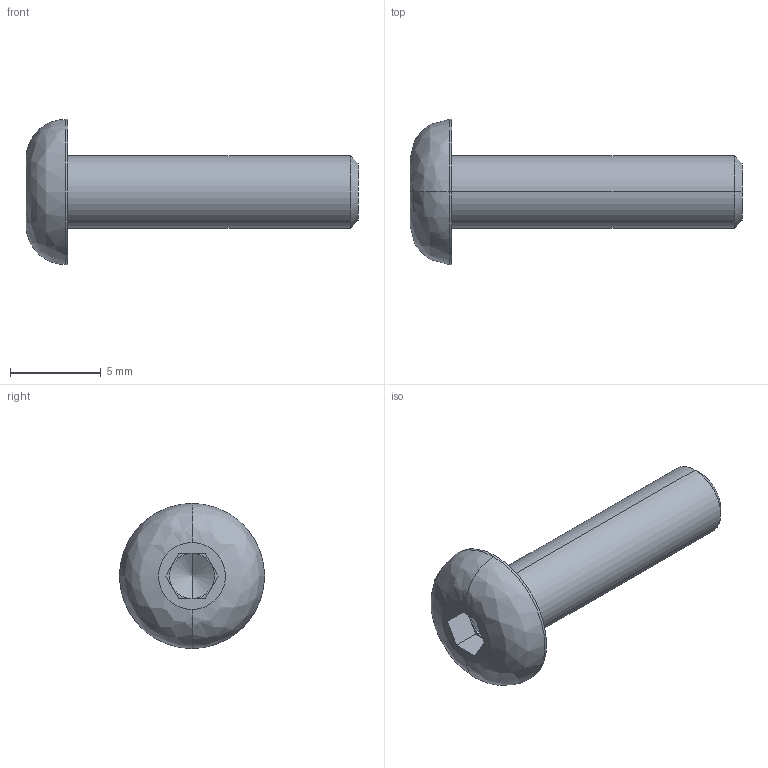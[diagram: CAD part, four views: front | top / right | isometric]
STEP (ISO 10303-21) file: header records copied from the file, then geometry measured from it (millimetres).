
FILE_DESCRIPTION (( 'STEP AP214' ), '1' );
FILE_NAME ('ISO7380_4x16.STEP', '2016-05-18T14:42:38', ( '' ), ( '' ), 'SwSTEP 2.0', 'SolidWorks 2014', '' );
FILE_SCHEMA (( 'AUTOMOTIVE_DESIGN' ));
Length unit declared in the file: millimetre
Products named in the file (1): ISO7380_4x16
Bounding box: 18.3 x 8 x 8 mm (x, y, z)
Volume: 283.8 mm3; surface area: 345 mm2
Topology: 1 solids, 1 shells, 27 faces, 59 edges, 34 vertices
Faces by surface type: plane 15, cylinder 6, cone 4, bspline 2
Entity records: 771 total; most frequent: CARTESIAN_POINT 158, DIRECTION 126, ORIENTED_EDGE 114, EDGE_CURVE 57, AXIS2_PLACEMENT_3D 46, VECTOR 34, VERTEX_POINT 34, LINE 34
